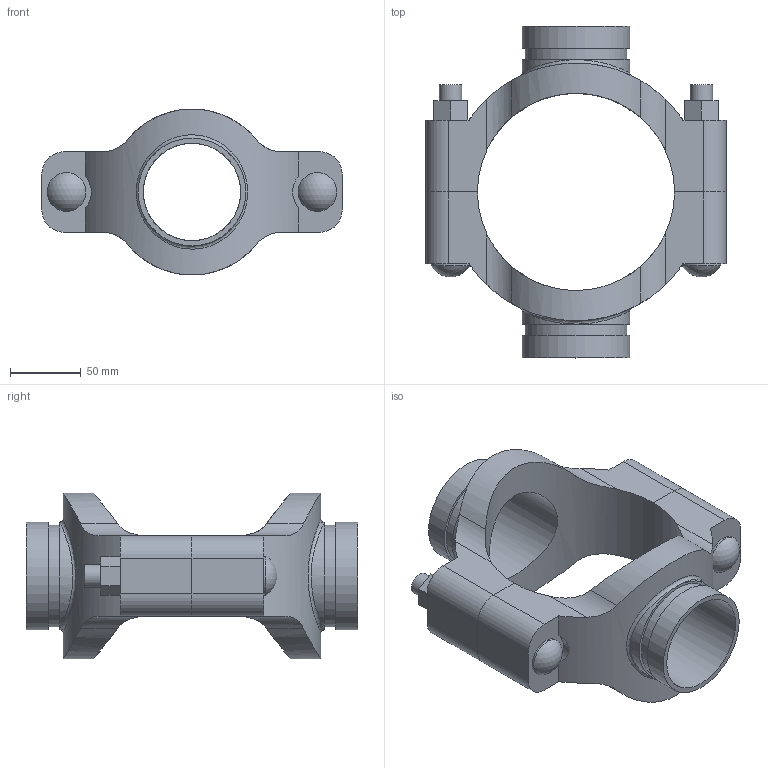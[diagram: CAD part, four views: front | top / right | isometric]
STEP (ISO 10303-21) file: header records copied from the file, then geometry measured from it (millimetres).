
FILE_DESCRIPTION(/* description */ ('VIC MECH-T BRANCH OUTLET CROSS STYLE 920N (GRVD)','CAx-IF Rec.Pracs.---Representation and Presentation of Product Manufacturing Information (PMI)---4.0---2014-10-13'),/* implementation_level */ '2;1');
FILE_NAME(/* name */ 'C:\Users\Vjadhav\AppData\Roaming\Autodesk\ApplicationPlugins\Back Up\Victaulic_IPS_Mechanical-Cross Outlet_Style 920N (OGS)\Victaulic_IPS_Mechanical-Cross Outlet_05.0 (139.7)x02.5 (76.1)x02.5 (76.1) (125x65x65).stp',/* time_stamp */ '2020-08-06T19:44:06+05:00',/* author */ ('Vjadhav'),/* organization */ ('Victaulic'),/* preprocessor_version */ 'ST-DEVELOPER v17.2',/* originating_system */ 'Autodesk Inventor 2019',/* authorisation */ '');
FILE_SCHEMA (('AP242_MANAGED_MODEL_BASED_3D_ENGINEERING_MIM_LF { 1 0 10303 442 1 1 4 }'));
Length unit declared in the file: inch
Products named in the file (3): 920NG-05.0 (139.7)x02.5 (76.1)x02.5 (76.1); 920G-05.0 (139.7)x02.5 (76.1); 920G-05.0 (139.7)x02.5 (76.1)_1
Assembly tree (2 placements, depth 2):
  920NG-05.0 (139.7)x02.5 (76.1)x02.5 (76.1)
    920G-05.0 (139.7)x02.5 (76.1)
    920G-05.0 (139.7)x02.5 (76.1)_1
Bounding box: 212.85 x 235.2 x 117.55 mm (x, y, z)
Volume: 911830.8 mm3; surface area: 170586.3 mm2
Topology: 2 solids, 2 shells, 108 faces, 274 edges, 186 vertices
Faces by surface type: plane 54, cylinder 50, sphere 2, bspline 2
Full cylindrical faces by diameter (mm): 15.875 x4, 27.381 x2, 68.986 x2, 72.263 x2, 76.2 x4
Entity records: 4326 total; most frequent: CARTESIAN_POINT 1445, DIRECTION 552, ORIENTED_EDGE 548, EDGE_CURVE 274, AXIS2_PLACEMENT_3D 201, VERTEX_POINT 186, LINE 150, VECTOR 150
